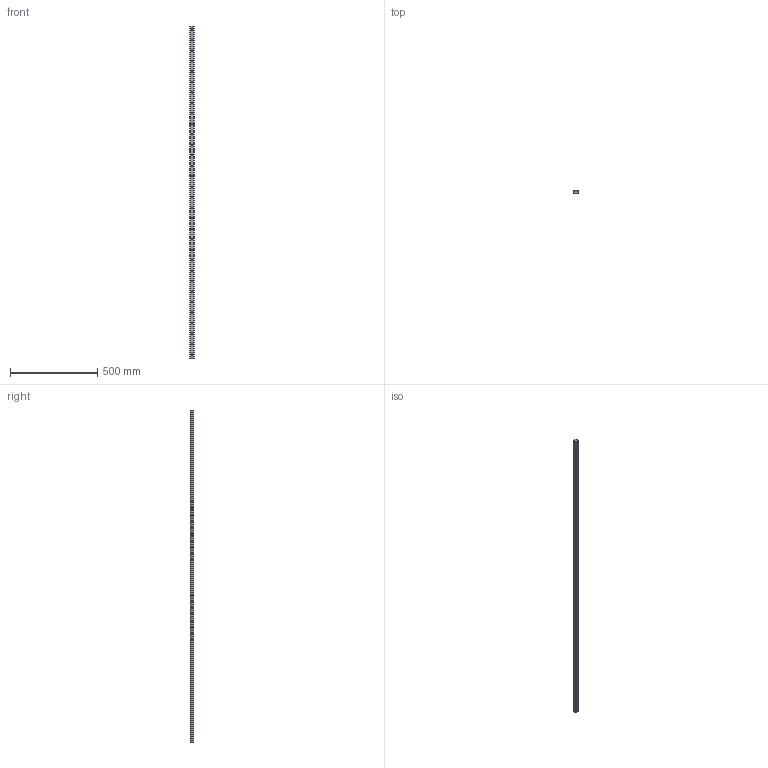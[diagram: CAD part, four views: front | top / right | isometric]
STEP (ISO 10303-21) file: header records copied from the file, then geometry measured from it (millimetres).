
FILE_DESCRIPTION (( 'STEP AP203' ), '1' );
FILE_NAME ('L1016.BL25-1900.step', '2019-06-12T12:09:17', ( '' ), ( '' ), 'SwSTEP 2.0', 'SolidWorks 2017', '' );
FILE_SCHEMA (( 'CONFIG_CONTROL_DESIGN' ));
Length unit declared in the file: millimetre
Products named in the file (1): L1016.BL25-1900
Bounding box: 23 x 19.2 x 1900 mm (x, y, z)
Volume: 700032.4 mm3; surface area: 180100.6 mm2
Topology: 1 solids, 1 shells, 186 faces, 456 edges, 304 vertices
Faces by surface type: cylinder 132, plane 54
Entity records: 5829 total; most frequent: DIRECTION 1094, CARTESIAN_POINT 947, ORIENTED_EDGE 912, EDGE_CURVE 456, AXIS2_PLACEMENT_3D 451, VERTEX_POINT 304, EDGE_LOOP 282, CIRCLE 264
